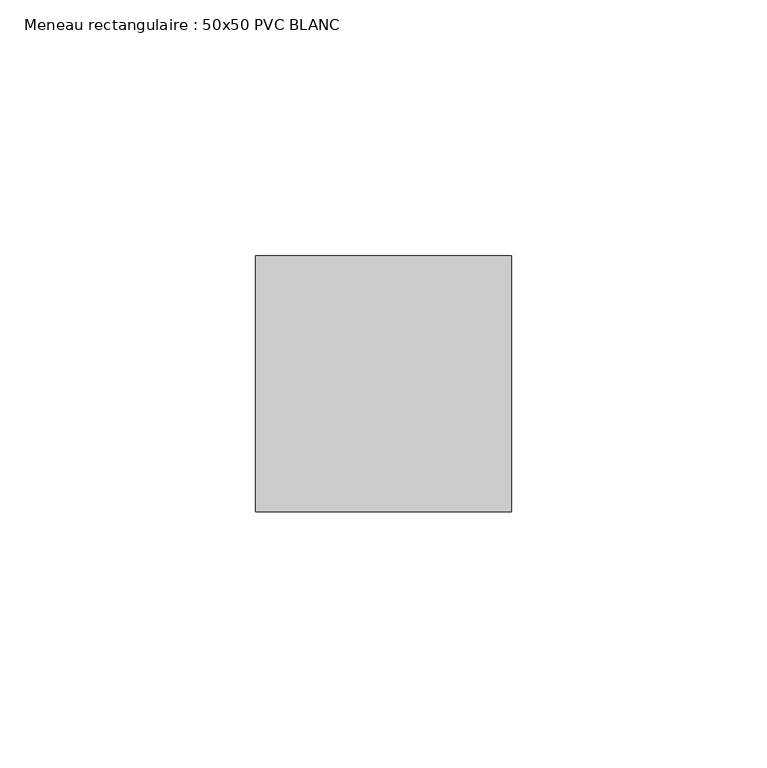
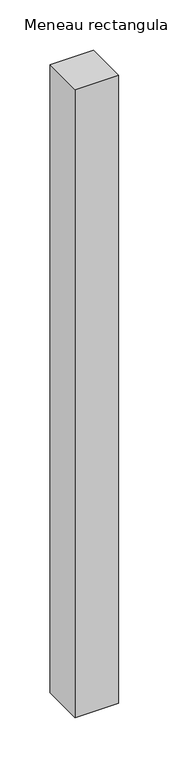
"""IFC4 building model written with IfcOpenShell, lengths in millimetres: member geometry, Meneau rectangulaire : 50x50 PVC BLANC."""

from ifc_helpers import new_model, si_unit, frame, origin, place, context, project, spatial, polyline, outline, extrude, source, transform, mapped, element, save


def meneau_rectangulaire_50x50_pvc_blanc_938ec4fd(model_context):
    return source(origin(), model_context, "Body", "SweptSolid", [
        extrude(outline(polyline([(0.0, 0.0), (0.0, -50.0), (-50.0, -50.0), (-50.0, 0.0), (0.0, 0.0)])), frame((0.0, 0.0, -763.0), z_axis=(0.0, 0.0, 1.0), x_axis=(1.0, 0.0, 0.0)), (0.0, 0.0, 1.0), 763.0),
    ])


if __name__ == "__main__":
    model = new_model("IFC4")
    model_context = context("Model", 3, world=origin())
    ifc_project = project(units=[si_unit("LENGTHUNIT", "METRE", prefix="MILLI")], contexts=[model_context])
    site = spatial("IfcSite", under=ifc_project)
    building = spatial("IfcBuilding", under=site)
    placement = place(None, origin())
    meneau_rectangulaire_50x50_pvc_blanc_shape = meneau_rectangulaire_50x50_pvc_blanc_938ec4fd(model_context)
    element("IfcMember", 1, ObjectType="Meneau rectangulaire : 50x50 PVC BLANC", at=placement, inside=building, context=model_context, shape_type="MappedRepresentation", body=[
        mapped(meneau_rectangulaire_50x50_pvc_blanc_shape, transform((0.0, 0.0, 0.0), x_axis=(1.0, 0.0, 0.0), y_axis=(0.0, 1.0, 0.0), z_axis=(0.0, 0.0, 1.0))),
    ])
    save(model, "model.ifc")
